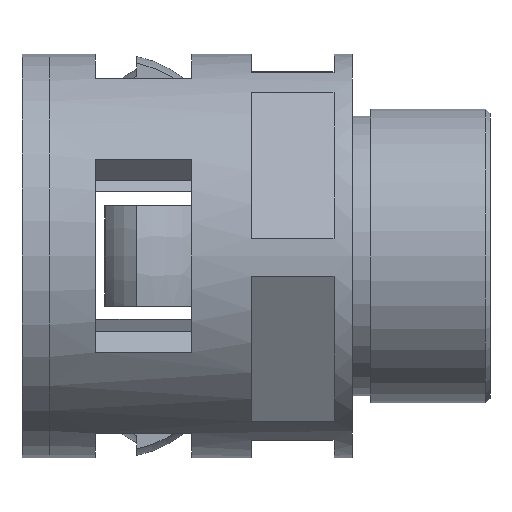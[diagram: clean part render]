
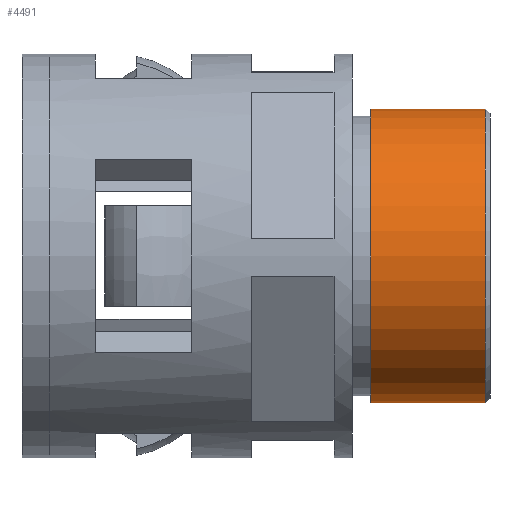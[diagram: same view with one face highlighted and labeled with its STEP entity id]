
A CAD part, front view. The second image highlights one B-rep face of the part: STEP entity #4491.
In plain terms, the highlighted cylindrical face has radius 16 mm (diameter 32 mm), a partial arc.
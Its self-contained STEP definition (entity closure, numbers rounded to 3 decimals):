
#480 = CARTESIAN_POINT ( 'NONE',  ( 14.5, 0., 16. ) ) ;
#605 = CARTESIAN_POINT ( 'NONE',  ( 15., 0., -16. ) ) ;
#606 = LINE ( 'NONE', #605, #610 ) ;
#609 = DIRECTION ( 'NONE',  ( -1., 0., 0. ) ) ;
#610 = VECTOR ( 'NONE', #609, 1000. ) ;
#663 = CARTESIAN_POINT ( 'NONE',  ( 14.5, 0., -16. ) ) ;
#739 = CARTESIAN_POINT ( 'NONE',  ( 15., 0., 16. ) ) ;
#740 = LINE ( 'NONE', #739, #746 ) ;
#745 = DIRECTION ( 'NONE',  ( -1., 0., 0. ) ) ;
#746 = VECTOR ( 'NONE', #745, 1000. ) ;
#890 = CARTESIAN_POINT ( 'NONE',  ( 2., 0., 16. ) ) ;
#1156 = CARTESIAN_POINT ( 'NONE',  ( 2., 0., -16. ) ) ;
#4163 = VERTEX_POINT ( 'NONE', #480 ) ;
#4201 = EDGE_CURVE ( 'NONE', #4230, #4375, #606, .T. ) ;
#4230 = VERTEX_POINT ( 'NONE', #663 ) ;
#4248 = EDGE_CURVE ( 'NONE', #4163, #4428, #740, .T. ) ;
#4375 = VERTEX_POINT ( 'NONE', #1156 ) ;
#4428 = VERTEX_POINT ( 'NONE', #890 ) ;
#4487 = EDGE_CURVE ( 'NONE', #4428, #4375, #6117, .T. ) ;
#4491 = ADVANCED_FACE ( 'NONE', ( #6152 ), #6153, .T. ) ;
#4492 = EDGE_LOOP ( 'NONE', ( #4682, #4681, #4513, #4685 ) ) ;
#4512 = EDGE_CURVE ( 'NONE', #4230, #4163, #6193, .T. ) ;
#4513 = ORIENTED_EDGE ( 'NONE', *, *, #4248, .T. ) ;
#4681 = ORIENTED_EDGE ( 'NONE', *, *, #4512, .T. ) ;
#4682 = ORIENTED_EDGE ( 'NONE', *, *, #4201, .F. ) ;
#4685 = ORIENTED_EDGE ( 'NONE', *, *, #4487, .T. ) ;
#6104 = CARTESIAN_POINT ( 'NONE',  ( 2., 0., 0. ) ) ;
#6109 = AXIS2_PLACEMENT_3D ( 'NONE', #6104, #6116, #6115 ) ;
#6115 = DIRECTION ( 'NONE',  ( 0., 0., -1. ) ) ;
#6116 = DIRECTION ( 'NONE',  ( 1., 0., 0. ) ) ;
#6117 = CIRCLE ( 'NONE', #6109, 16. ) ;
#6146 = AXIS2_PLACEMENT_3D ( 'NONE', #6149, #6148, #6147 ) ;
#6147 = DIRECTION ( 'NONE',  ( 0., 0., 1. ) ) ;
#6148 = DIRECTION ( 'NONE',  ( -1., 0., 0. ) ) ;
#6149 = CARTESIAN_POINT ( 'NONE',  ( 15., 0., 0. ) ) ;
#6152 = FACE_OUTER_BOUND ( 'NONE', #4492, .T. ) ;
#6153 = CYLINDRICAL_SURFACE ( 'NONE', #6146, 16. ) ;
#6187 = AXIS2_PLACEMENT_3D ( 'NONE', #6204, #6203, #6198 ) ;
#6193 = CIRCLE ( 'NONE', #6187, 16. ) ;
#6198 = DIRECTION ( 'NONE',  ( 0., 0., -1. ) ) ;
#6203 = DIRECTION ( 'NONE',  ( -1., 0., 0. ) ) ;
#6204 = CARTESIAN_POINT ( 'NONE',  ( 14.5, 0., 0. ) ) ;
